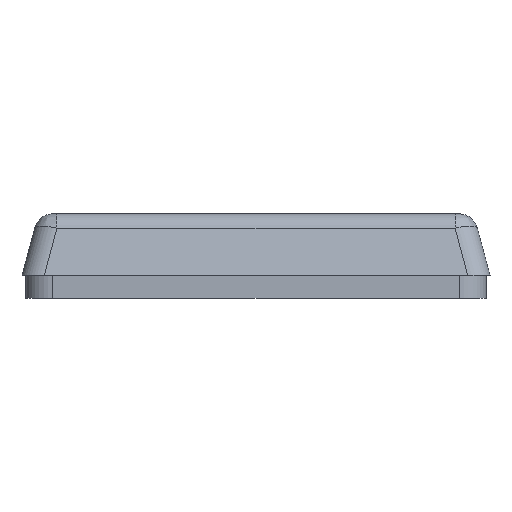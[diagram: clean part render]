
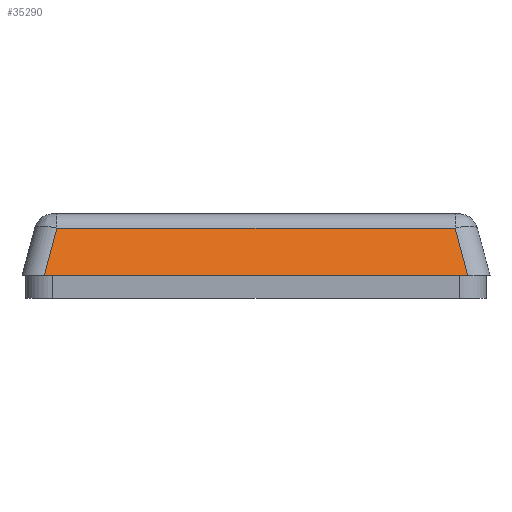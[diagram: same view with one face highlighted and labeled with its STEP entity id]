
A CAD part, left-side view. The second image highlights one B-rep face of the part: STEP entity #35290.
In plain terms, the highlighted planar face has unit normal (-0.966, 0, 0.259).
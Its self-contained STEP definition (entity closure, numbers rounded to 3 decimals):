
#2159=PLANE('',#38296);
#5180=LINE('',#59859,#8280);
#5182=LINE('',#59863,#8282);
#5183=LINE('',#59867,#8283);
#5184=LINE('',#59868,#8284);
#8280=VECTOR('',#46620,10.);
#8282=VECTOR('',#46624,10.);
#8283=VECTOR('',#46629,10.);
#8284=VECTOR('',#46630,10.);
#11052=FACE_OUTER_BOUND('',#13359,.T.);
#13359=EDGE_LOOP('',(#30994,#30995,#30996,#30997));
#17670=VERTEX_POINT('',#59852);
#17672=VERTEX_POINT('',#59857);
#17673=VERTEX_POINT('',#59862);
#17674=VERTEX_POINT('',#59866);
#22291=EDGE_CURVE('',#17672,#17670,#5180,.T.);
#22293=EDGE_CURVE('',#17670,#17673,#5182,.T.);
#22295=EDGE_CURVE('',#17674,#17672,#5183,.T.);
#22296=EDGE_CURVE('',#17673,#17674,#5184,.T.);
#30994=ORIENTED_EDGE('',*,*,#22291,.F.);
#30995=ORIENTED_EDGE('',*,*,#22295,.F.);
#30996=ORIENTED_EDGE('',*,*,#22296,.F.);
#30997=ORIENTED_EDGE('',*,*,#22293,.F.);
#35290=ADVANCED_FACE('',(#11052),#2159,.F.);
#38296=AXIS2_PLACEMENT_3D('',#59865,#46627,#46628);
#46620=DIRECTION('',(0.251,-0.251,0.935));
#46624=DIRECTION('',(0.,-1.,0.));
#46627=DIRECTION('center_axis',(0.966,0.,-0.259));
#46628=DIRECTION('ref_axis',(-0.259,0.,-0.966));
#46629=DIRECTION('',(0.,1.,0.));
#46630=DIRECTION('',(-0.251,-0.251,-0.935));
#59852=CARTESIAN_POINT('',(-49.853,25.955,2.147));
#59857=CARTESIAN_POINT('',(-51.5,27.602,-4.));
#59859=CARTESIAN_POINT('',(-46.905,23.007,13.149));
#59862=CARTESIAN_POINT('',(-49.853,-25.955,2.147));
#59863=CARTESIAN_POINT('',(-49.853,30.5,2.147));
#59865=CARTESIAN_POINT('Origin',(-49.853,30.5,2.147));
#59866=CARTESIAN_POINT('',(-51.5,-27.602,-4.));
#59867=CARTESIAN_POINT('',(-51.5,15.25,-4.));
#59868=CARTESIAN_POINT('',(-48.223,-24.326,8.228));
